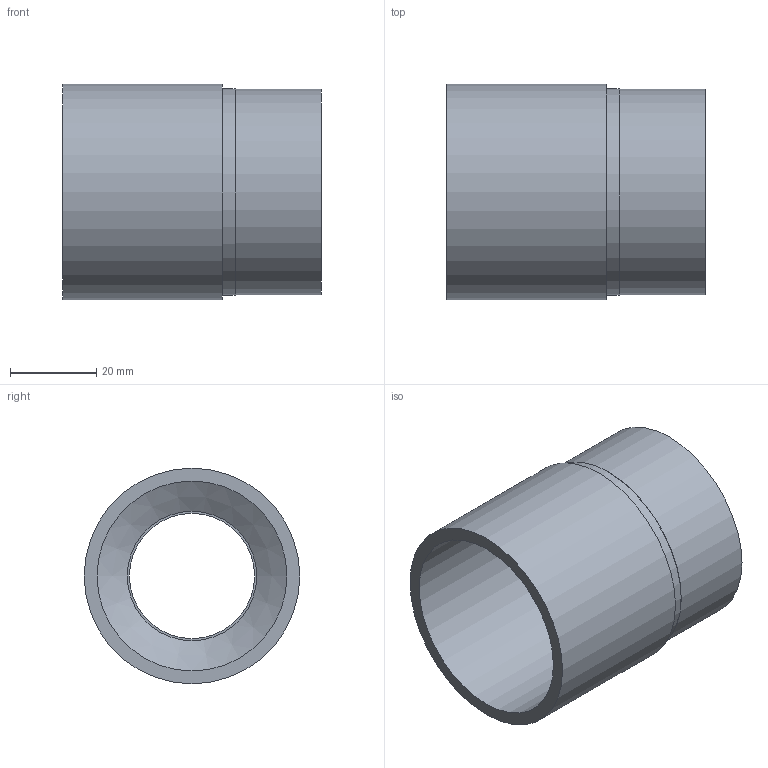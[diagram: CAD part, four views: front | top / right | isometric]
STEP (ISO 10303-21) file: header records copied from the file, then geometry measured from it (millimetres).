
FILE_DESCRIPTION(/* description */ (''),/* implementation_level */ '2;1');
FILE_NAME(/* name */ 'Z:\Geberit\Export\NewStep\Gewindest.m.AG1_Ipart\stp\361727.stp',/* time_stamp */ '2014-04-03T18:40:16+02:00',/* author */ ('nelson'),/* organization */ (''),/* preprocessor_version */ 'ST-DEVELOPER v15.2',/* originating_system */ 'Autodesk Inventor 2014',/* authorisation */ '');
FILE_SCHEMA (('AUTOMOTIVE_DESIGN { 1 0 10303 214 3 1 1 }'));
Length unit declared in the file: millimetre
Products named in the file (1): 361727
Bounding box: 60 x 50 x 50 mm (x, y, z)
Volume: 45242 mm3; surface area: 22931 mm2
Topology: 1 solids, 1 shells, 17 faces, 27 edges, 17 vertices
Faces by surface type: cylinder 8, plane 7, cone 2
Full cylindrical faces by diameter (mm): 29 x1, 30 x1, 31.8 x1, 32 x1, 44 x1, 47.609 x1, 47.809 x1, 50 x1
Entity records: 393 total; most frequent: DIRECTION 70, CARTESIAN_POINT 52, AXIS2_PLACEMENT_3D 35, EDGE_LOOP 34, ORIENTED_EDGE 34, FACE_BOUND 21, STYLED_ITEM 18, CIRCLE 17
